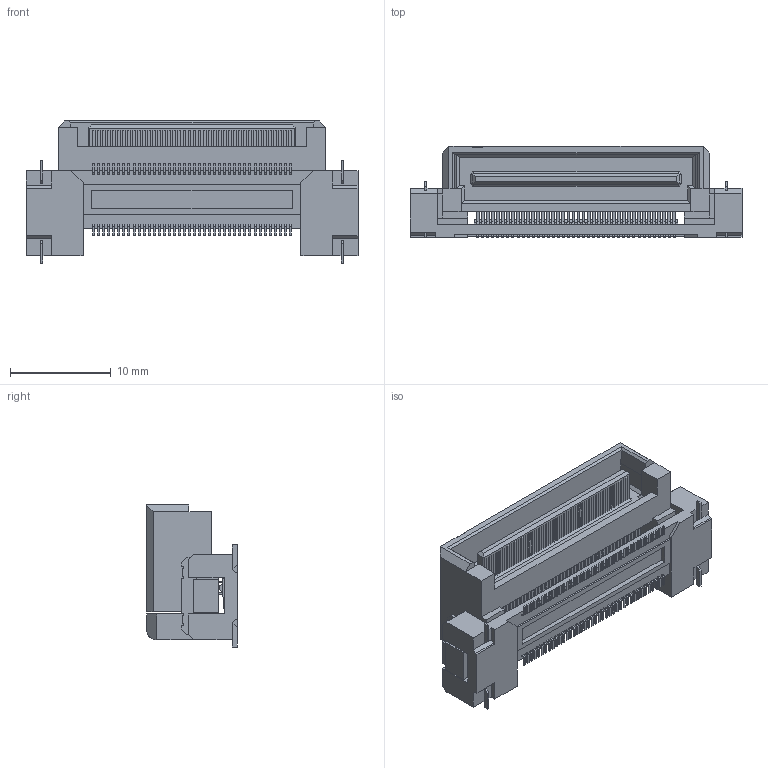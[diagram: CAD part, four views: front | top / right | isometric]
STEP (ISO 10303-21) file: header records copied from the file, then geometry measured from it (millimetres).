
FILE_DESCRIPTION(('Creo Elements/Direct Modeling STEP Export'),'2;1');
FILE_NAME('DT00-080L.stp','2018-11-12T16:50:24',(''),(''),'Creo Elements/Direct Modeling STEP processor for AP214 (Solid Model)','Creo Elements/Direct Modeling 19.0F 14-Feb-2017 (C) Parametric Technology GmbH','');
FILE_SCHEMA(('AUTOMOTIVE_DESIGN { 1 0 10303 214 1 1 1 1 }'));
Products named in the file (2): DT00-080L_model
Assembly tree (1 placements, depth 2):
  DT00-080L_model
    DT00-080L_model
Bounding box: 32.92 x 9 x 14.09 mm (x, y, z)
Volume: 1274 mm3; surface area: 2846.2 mm2
Topology: 1 solids, 1 shells, 3803 faces, 10754 edges, 6996 vertices
Faces by surface type: plane 3073, cylinder 730
Entity records: 117658 total; most frequent: ORIENTED_EDGE 21508, CARTESIAN_POINT 20647, DIRECTION 18589, EDGE_CURVE 10754, VECTOR 8713, LINE 8713, VERTEX_POINT 6996, AXIS2_PLACEMENT_3D 4938
